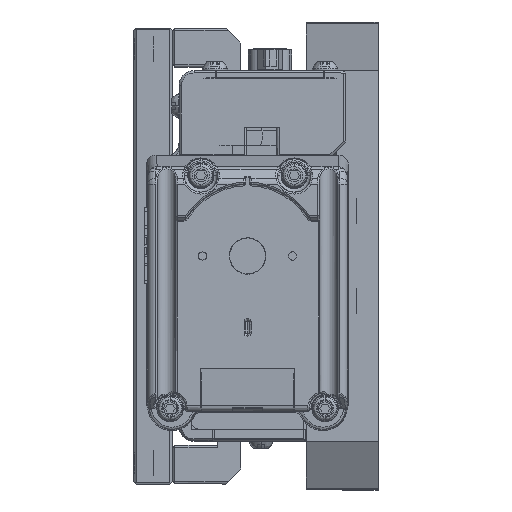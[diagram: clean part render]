
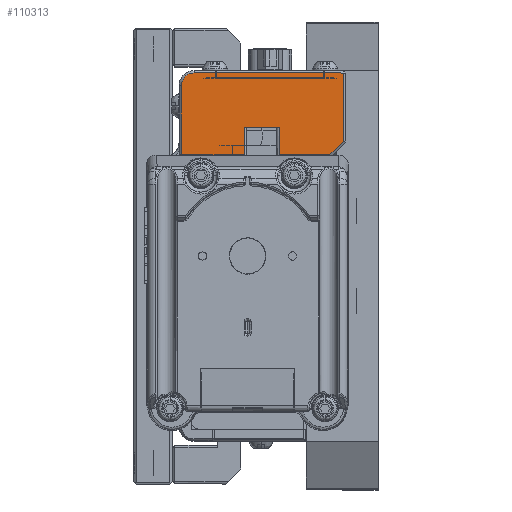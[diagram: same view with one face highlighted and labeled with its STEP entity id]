
A CAD part, left-side view. The second image highlights one B-rep face of the part: STEP entity #110313.
In plain terms, the highlighted planar face has unit normal (-1, 0, 0).
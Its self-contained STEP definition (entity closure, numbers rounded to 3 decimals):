
#64 = VERTEX_POINT ( 'NONE', #53860 ) ;
#2512 = VERTEX_POINT ( 'NONE', #74093 ) ;
#3162 = VERTEX_POINT ( 'NONE', #47399 ) ;
#3457 = CARTESIAN_POINT ( 'NONE',  ( -73.66, 42.113, 60.706 ) ) ;
#3921 = DIRECTION ( 'NONE',  ( 0., -1., 0. ) ) ;
#4840 = EDGE_CURVE ( 'NONE', #113683, #64, #97750, .T. ) ;
#5616 = VERTEX_POINT ( 'NONE', #99882 ) ;
#6051 = EDGE_CURVE ( 'NONE', #64, #2512, #113536, .T. ) ;
#7242 = EDGE_CURVE ( 'NONE', #91170, #104231, #83765, .T. ) ;
#8222 = CARTESIAN_POINT ( 'NONE',  ( -73.66, 42.113, 78.486 ) ) ;
#8628 = EDGE_CURVE ( 'NONE', #104231, #13013, #129806, .T. ) ;
#9206 = EDGE_CURVE ( 'NONE', #5616, #113683, #129685, .T. ) ;
#9363 = CARTESIAN_POINT ( 'NONE',  ( -73.66, 7.315, 63.583 ) ) ;
#11396 = ORIENTED_EDGE ( 'NONE', *, *, #7242, .T. ) ;
#12380 = VECTOR ( 'NONE', #42589, 1000. ) ;
#13013 = VERTEX_POINT ( 'NONE', #76639 ) ;
#16158 = CARTESIAN_POINT ( 'NONE',  ( -73.66, 7.315, 78.486 ) ) ;
#18000 = VERTEX_POINT ( 'NONE', #9363 ) ;
#20269 = VECTOR ( 'NONE', #30974, 1000. ) ;
#21912 = ORIENTED_EDGE ( 'NONE', *, *, #6051, .T. ) ;
#23485 = VECTOR ( 'NONE', #46297, 1000. ) ;
#24112 = EDGE_CURVE ( 'NONE', #43195, #91170, #51061, .T. ) ;
#26638 = DIRECTION ( 'NONE',  ( 0., 0., -1. ) ) ;
#30974 = DIRECTION ( 'NONE',  ( 0., 0., 1. ) ) ;
#35159 = AXIS2_PLACEMENT_3D ( 'NONE', #8222, #60389, #131912 ) ;
#41433 = ORIENTED_EDGE ( 'NONE', *, *, #65412, .T. ) ;
#42589 = DIRECTION ( 'NONE',  ( 0., -1., 0. ) ) ;
#43163 = LINE ( 'NONE', #3457, #94642 ) ;
#43195 = VERTEX_POINT ( 'NONE', #57707 ) ;
#43698 = CARTESIAN_POINT ( 'NONE',  ( -73.66, 28.27, 78.486 ) ) ;
#45450 = CARTESIAN_POINT ( 'NONE',  ( -73.66, 38.938, 77.978 ) ) ;
#46297 = DIRECTION ( 'NONE',  ( 0., 1., 0. ) ) ;
#47399 = CARTESIAN_POINT ( 'NONE',  ( -73.66, 10.193, 60.706 ) ) ;
#47624 = CARTESIAN_POINT ( 'NONE',  ( -73.66, 42.113, 77.978 ) ) ;
#49226 = VECTOR ( 'NONE', #68987, 1000. ) ;
#49963 = PLANE ( 'NONE',  #35159 ) ;
#51061 = LINE ( 'NONE', #47624, #23485 ) ;
#51727 = EDGE_CURVE ( 'NONE', #13013, #5616, #43163, .T. ) ;
#52485 = ORIENTED_EDGE ( 'NONE', *, *, #24112, .T. ) ;
#53860 = CARTESIAN_POINT ( 'NONE',  ( -73.66, 20.904, 66.548 ) ) ;
#57707 = CARTESIAN_POINT ( 'NONE',  ( -73.66, 7.315, 77.978 ) ) ;
#58227 = DIRECTION ( 'NONE',  ( 0., 0., -1. ) ) ;
#58372 = DIRECTION ( 'NONE',  ( -1., 0., 0. ) ) ;
#58378 = LINE ( 'NONE', #16158, #109672 ) ;
#58530 = CARTESIAN_POINT ( 'NONE',  ( -73.66, 38.938, 75.311 ) ) ;
#60389 = DIRECTION ( 'NONE',  ( -1., 0., 0. ) ) ;
#61807 = ORIENTED_EDGE ( 'NONE', *, *, #70063, .F. ) ;
#64294 = LINE ( 'NONE', #114449, #12380 ) ;
#65361 = CARTESIAN_POINT ( 'NONE',  ( -73.66, 28.27, 66.548 ) ) ;
#65412 = EDGE_CURVE ( 'NONE', #2512, #3162, #64294, .T. ) ;
#68077 = DIRECTION ( 'NONE',  ( 0., 0.707, -0.707 ) ) ;
#68987 = DIRECTION ( 'NONE',  ( 0., 0., -1. ) ) ;
#69582 = CARTESIAN_POINT ( 'NONE',  ( -73.66, 20.904, 78.486 ) ) ;
#70063 = EDGE_CURVE ( 'NONE', #18000, #3162, #117915, .T. ) ;
#70106 = DIRECTION ( 'NONE',  ( 0., 0., -1. ) ) ;
#70462 = VECTOR ( 'NONE', #77206, 1000. ) ;
#71062 = EDGE_CURVE ( 'NONE', #43195, #18000, #58378, .T. ) ;
#74093 = CARTESIAN_POINT ( 'NONE',  ( -73.66, 20.904, 60.706 ) ) ;
#74273 = CARTESIAN_POINT ( 'NONE',  ( -73.66, 41.605, 78.486 ) ) ;
#75353 = VECTOR ( 'NONE', #70106, 1000. ) ;
#76639 = CARTESIAN_POINT ( 'NONE',  ( -73.66, 41.605, 60.706 ) ) ;
#77206 = DIRECTION ( 'NONE',  ( 0., -1., 0. ) ) ;
#77344 = ORIENTED_EDGE ( 'NONE', *, *, #71062, .F. ) ;
#80119 = CARTESIAN_POINT ( 'NONE',  ( -73.66, 42.113, 66.548 ) ) ;
#80294 = CARTESIAN_POINT ( 'NONE',  ( -73.66, 41.605, 75.311 ) ) ;
#82993 = FACE_OUTER_BOUND ( 'NONE', #89366, .T. ) ;
#83765 = CIRCLE ( 'NONE', #121584, 2.667 ) ;
#88663 = CARTESIAN_POINT ( 'NONE',  ( -73.66, 7.315, 63.583 ) ) ;
#89366 = EDGE_LOOP ( 'NONE', ( #133247, #93541, #110977, #21912, #41433, #61807, #77344, #52485, #11396, #93888 ) ) ;
#91170 = VERTEX_POINT ( 'NONE', #45450 ) ;
#93541 = ORIENTED_EDGE ( 'NONE', *, *, #9206, .T. ) ;
#93888 = ORIENTED_EDGE ( 'NONE', *, *, #8628, .T. ) ;
#93890 = VECTOR ( 'NONE', #68077, 1000. ) ;
#94642 = VECTOR ( 'NONE', #3921, 1000. ) ;
#97750 = LINE ( 'NONE', #80119, #70462 ) ;
#99882 = CARTESIAN_POINT ( 'NONE',  ( -73.66, 28.27, 60.706 ) ) ;
#104231 = VERTEX_POINT ( 'NONE', #80294 ) ;
#109672 = VECTOR ( 'NONE', #26638, 1000. ) ;
#110313 = ADVANCED_FACE ( 'NONE', ( #82993 ), #49963, .T. ) ;
#110977 = ORIENTED_EDGE ( 'NONE', *, *, #4840, .T. ) ;
#113536 = LINE ( 'NONE', #69582, #49226 ) ;
#113683 = VERTEX_POINT ( 'NONE', #65361 ) ;
#114449 = CARTESIAN_POINT ( 'NONE',  ( -73.66, 42.113, 60.706 ) ) ;
#117915 = LINE ( 'NONE', #88663, #93890 ) ;
#121584 = AXIS2_PLACEMENT_3D ( 'NONE', #58530, #58372, #58227 ) ;
#129685 = LINE ( 'NONE', #43698, #20269 ) ;
#129806 = LINE ( 'NONE', #74273, #75353 ) ;
#131912 = DIRECTION ( 'NONE',  ( 0., -1., 0. ) ) ;
#133247 = ORIENTED_EDGE ( 'NONE', *, *, #51727, .T. ) ;
